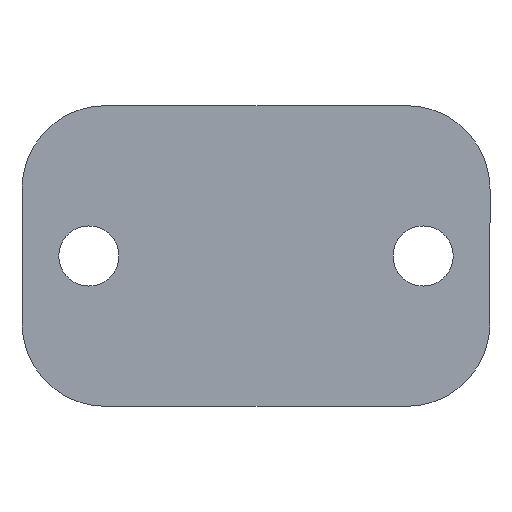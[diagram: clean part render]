
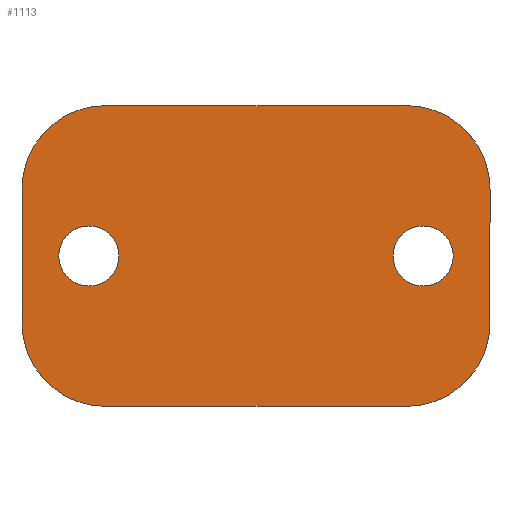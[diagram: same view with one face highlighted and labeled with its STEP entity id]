
A CAD part, front view. The second image highlights one B-rep face of the part: STEP entity #1113.
In plain terms, the highlighted planar face has unit normal (0, -1, 0).
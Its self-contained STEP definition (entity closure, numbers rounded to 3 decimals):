
#49 = EDGE_CURVE ( 'NONE', #4100, #4696, #3981, .T. ) ;
#62 = CARTESIAN_POINT ( 'NONE',  ( -70., -20., -20. ) ) ;
#136 = CARTESIAN_POINT ( 'NONE',  ( 45., -20., -45. ) ) ;
#144 = VERTEX_POINT ( 'NONE', #2325 ) ;
#148 = ORIENTED_EDGE ( 'NONE', *, *, #49, .T. ) ;
#280 = CARTESIAN_POINT ( 'NONE',  ( -45., -20., 45. ) ) ;
#321 = VERTEX_POINT ( 'NONE', #4947 ) ;
#398 = DIRECTION ( 'NONE',  ( 0., -1., 0. ) ) ;
#454 = CARTESIAN_POINT ( 'NONE',  ( 70., -20., -20. ) ) ;
#499 = CARTESIAN_POINT ( 'NONE',  ( -50., -20., 0. ) ) ;
#503 = DIRECTION ( 'NONE',  ( 0., -1., 0. ) ) ;
#578 = DIRECTION ( 'NONE',  ( 0., 0., 1. ) ) ;
#618 = CARTESIAN_POINT ( 'NONE',  ( 45., -20., 45. ) ) ;
#652 = CIRCLE ( 'NONE', #5374, 25. ) ;
#691 = CIRCLE ( 'NONE', #2403, 9. ) ;
#724 = CIRCLE ( 'NONE', #2163, 9. ) ;
#737 = DIRECTION ( 'NONE',  ( -1., 0., 0. ) ) ;
#775 = ORIENTED_EDGE ( 'NONE', *, *, #943, .F. ) ;
#845 = DIRECTION ( 'NONE',  ( 0., -1., 0. ) ) ;
#890 = EDGE_CURVE ( 'NONE', #5433, #4100, #1783, .T. ) ;
#943 = EDGE_CURVE ( 'NONE', #3241, #2444, #691, .T. ) ;
#959 = DIRECTION ( 'NONE',  ( 1., 0., 0. ) ) ;
#1047 = ORIENTED_EDGE ( 'NONE', *, *, #2418, .T. ) ;
#1111 = DIRECTION ( 'NONE',  ( 1., 0., 0. ) ) ;
#1113 = ADVANCED_FACE ( 'NONE', ( #1455, #4437, #3603 ), #3574, .T. ) ;
#1125 = CARTESIAN_POINT ( 'NONE',  ( 50., -20., 0. ) ) ;
#1128 = CARTESIAN_POINT ( 'NONE',  ( -45., -20., -45. ) ) ;
#1174 = ORIENTED_EDGE ( 'NONE', *, *, #2013, .T. ) ;
#1222 = EDGE_CURVE ( 'NONE', #2043, #321, #3739, .T. ) ;
#1285 = DIRECTION ( 'NONE',  ( 1., 0., 0. ) ) ;
#1343 = CARTESIAN_POINT ( 'NONE',  ( 50., -20., 0. ) ) ;
#1394 = DIRECTION ( 'NONE',  ( 1., 0., 0. ) ) ;
#1455 = FACE_BOUND ( 'NONE', #1819, .T. ) ;
#1482 = CARTESIAN_POINT ( 'NONE',  ( -45., -20., -45. ) ) ;
#1501 = LINE ( 'NONE', #1128, #3610 ) ;
#1524 = CARTESIAN_POINT ( 'NONE',  ( -70., -20., 20. ) ) ;
#1555 = DIRECTION ( 'NONE',  ( 1., 0., 0. ) ) ;
#1641 = CARTESIAN_POINT ( 'NONE',  ( -50., -20., 0. ) ) ;
#1688 = AXIS2_PLACEMENT_3D ( 'NONE', #2628, #4735, #959 ) ;
#1726 = DIRECTION ( 'NONE',  ( 0., -1., 0. ) ) ;
#1765 = VERTEX_POINT ( 'NONE', #1482 ) ;
#1783 = CIRCLE ( 'NONE', #1688, 25. ) ;
#1815 = EDGE_CURVE ( 'NONE', #2444, #3241, #5510, .T. ) ;
#1819 = EDGE_LOOP ( 'NONE', ( #2756, #775 ) ) ;
#1921 = DIRECTION ( 'NONE',  ( 1., 0., 0. ) ) ;
#2013 = EDGE_CURVE ( 'NONE', #1765, #5433, #1501, .T. ) ;
#2043 = VERTEX_POINT ( 'NONE', #618 ) ;
#2063 = EDGE_LOOP ( 'NONE', ( #5126, #1174, #5460, #148, #3369, #4222, #2738, #1047 ) ) ;
#2163 = AXIS2_PLACEMENT_3D ( 'NONE', #1125, #3676, #1921 ) ;
#2325 = CARTESIAN_POINT ( 'NONE',  ( 41., -20., 0. ) ) ;
#2359 = EDGE_CURVE ( 'NONE', #144, #3097, #724, .T. ) ;
#2403 = AXIS2_PLACEMENT_3D ( 'NONE', #499, #845, #3532 ) ;
#2418 = EDGE_CURVE ( 'NONE', #5409, #2871, #5422, .T. ) ;
#2429 = DIRECTION ( 'NONE',  ( 0., -1., 0. ) ) ;
#2444 = VERTEX_POINT ( 'NONE', #2557 ) ;
#2557 = CARTESIAN_POINT ( 'NONE',  ( -41., -20., 0. ) ) ;
#2628 = CARTESIAN_POINT ( 'NONE',  ( 45., -20., -20. ) ) ;
#2631 = AXIS2_PLACEMENT_3D ( 'NONE', #1343, #398, #1285 ) ;
#2644 = CIRCLE ( 'NONE', #3362, 25. ) ;
#2738 = ORIENTED_EDGE ( 'NONE', *, *, #5092, .T. ) ;
#2756 = ORIENTED_EDGE ( 'NONE', *, *, #1815, .F. ) ;
#2871 = VERTEX_POINT ( 'NONE', #62 ) ;
#2913 = AXIS2_PLACEMENT_3D ( 'NONE', #4662, #2429, #1111 ) ;
#3004 = DIRECTION ( 'NONE',  ( 1., 0., 0. ) ) ;
#3058 = CARTESIAN_POINT ( 'NONE',  ( -59., -20., 0. ) ) ;
#3097 = VERTEX_POINT ( 'NONE', #4442 ) ;
#3134 = CARTESIAN_POINT ( 'NONE',  ( 70., -20., 20. ) ) ;
#3188 = ORIENTED_EDGE ( 'NONE', *, *, #2359, .F. ) ;
#3241 = VERTEX_POINT ( 'NONE', #3058 ) ;
#3253 = DIRECTION ( 'NONE',  ( 0., 0., -1. ) ) ;
#3343 = CARTESIAN_POINT ( 'NONE',  ( 45., -20., 20. ) ) ;
#3345 = VECTOR ( 'NONE', #3253, 1000. ) ;
#3362 = AXIS2_PLACEMENT_3D ( 'NONE', #3343, #5089, #3375 ) ;
#3369 = ORIENTED_EDGE ( 'NONE', *, *, #5189, .T. ) ;
#3375 = DIRECTION ( 'NONE',  ( 1., 0., 0. ) ) ;
#3532 = DIRECTION ( 'NONE',  ( 1., 0., 0. ) ) ;
#3574 = PLANE ( 'NONE',  #5146 ) ;
#3603 = FACE_OUTER_BOUND ( 'NONE', #2063, .T. ) ;
#3610 = VECTOR ( 'NONE', #1555, 1000. ) ;
#3623 = CARTESIAN_POINT ( 'NONE',  ( -70., -20., 20. ) ) ;
#3676 = DIRECTION ( 'NONE',  ( 0., -1., 0. ) ) ;
#3739 = LINE ( 'NONE', #280, #5330 ) ;
#3909 = CIRCLE ( 'NONE', #2913, 25. ) ;
#3981 = LINE ( 'NONE', #3134, #4417 ) ;
#3996 = CARTESIAN_POINT ( 'NONE',  ( -45., -20., -20. ) ) ;
#4100 = VERTEX_POINT ( 'NONE', #454 ) ;
#4108 = EDGE_CURVE ( 'NONE', #3097, #144, #5364, .T. ) ;
#4222 = ORIENTED_EDGE ( 'NONE', *, *, #1222, .T. ) ;
#4408 = CARTESIAN_POINT ( 'NONE',  ( 0., -20., 0. ) ) ;
#4417 = VECTOR ( 'NONE', #578, 1000. ) ;
#4437 = FACE_BOUND ( 'NONE', #4637, .T. ) ;
#4442 = CARTESIAN_POINT ( 'NONE',  ( 59., -20., 0. ) ) ;
#4544 = CARTESIAN_POINT ( 'NONE',  ( 70., -20., 20. ) ) ;
#4637 = EDGE_LOOP ( 'NONE', ( #5030, #3188 ) ) ;
#4662 = CARTESIAN_POINT ( 'NONE',  ( -45., -20., 20. ) ) ;
#4696 = VERTEX_POINT ( 'NONE', #4544 ) ;
#4735 = DIRECTION ( 'NONE',  ( 0., -1., 0. ) ) ;
#4919 = DIRECTION ( 'NONE',  ( 0., -1., 0. ) ) ;
#4947 = CARTESIAN_POINT ( 'NONE',  ( -45., -20., 45. ) ) ;
#5030 = ORIENTED_EDGE ( 'NONE', *, *, #4108, .F. ) ;
#5089 = DIRECTION ( 'NONE',  ( 0., -1., 0. ) ) ;
#5092 = EDGE_CURVE ( 'NONE', #321, #5409, #3909, .T. ) ;
#5126 = ORIENTED_EDGE ( 'NONE', *, *, #5387, .T. ) ;
#5146 = AXIS2_PLACEMENT_3D ( 'NONE', #4408, #4919, #5293 ) ;
#5189 = EDGE_CURVE ( 'NONE', #4696, #2043, #2644, .T. ) ;
#5293 = DIRECTION ( 'NONE',  ( 1., 0., 0. ) ) ;
#5330 = VECTOR ( 'NONE', #737, 1000. ) ;
#5331 = AXIS2_PLACEMENT_3D ( 'NONE', #1641, #1726, #3004 ) ;
#5364 = CIRCLE ( 'NONE', #2631, 9. ) ;
#5374 = AXIS2_PLACEMENT_3D ( 'NONE', #3996, #503, #1394 ) ;
#5387 = EDGE_CURVE ( 'NONE', #2871, #1765, #652, .T. ) ;
#5409 = VERTEX_POINT ( 'NONE', #3623 ) ;
#5422 = LINE ( 'NONE', #1524, #3345 ) ;
#5433 = VERTEX_POINT ( 'NONE', #136 ) ;
#5460 = ORIENTED_EDGE ( 'NONE', *, *, #890, .T. ) ;
#5510 = CIRCLE ( 'NONE', #5331, 9. ) ;
